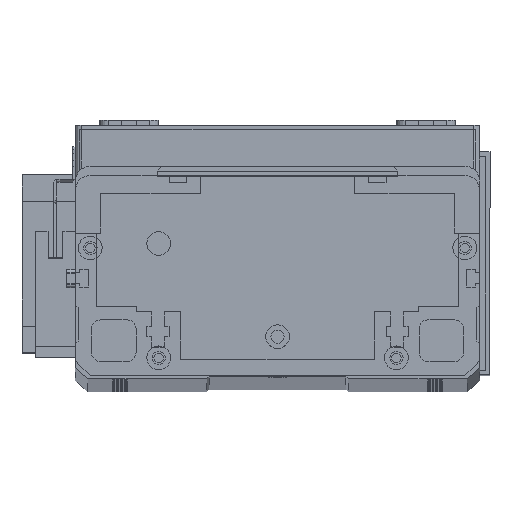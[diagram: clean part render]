
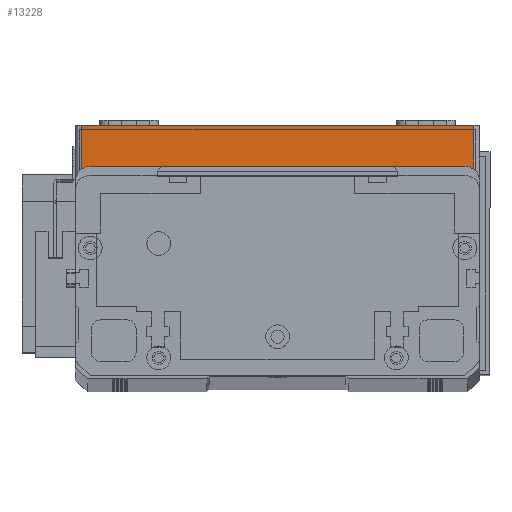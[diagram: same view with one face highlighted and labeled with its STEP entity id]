
A CAD part, top view. The second image highlights one B-rep face of the part: STEP entity #13228.
In plain terms, the highlighted planar face has unit normal (0, 0, 1) as drawn and (0, -1, 0) by its records, which use the part's own axes.
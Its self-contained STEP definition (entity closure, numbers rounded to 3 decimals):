
#1331 = CARTESIAN_POINT ( 'NONE',  ( 0., 0., 19.5 ) ) ;
#1428 = PLANE ( 'NONE',  #2782 ) ;
#1769 = LINE ( 'NONE', #26461, #7350 ) ;
#2222 = VECTOR ( 'NONE', #6581, 1000. ) ;
#2782 = AXIS2_PLACEMENT_3D ( 'NONE', #1331, #6234, #22743 ) ;
#3055 = CARTESIAN_POINT ( 'NONE',  ( 134., 0., 19.5 ) ) ;
#6182 = ORIENTED_EDGE ( 'NONE', *, *, #8465, .F. ) ;
#6234 = DIRECTION ( 'NONE',  ( 0., 1., 0. ) ) ;
#6581 = DIRECTION ( 'NONE',  ( 1., 0., 0. ) ) ;
#7350 = VECTOR ( 'NONE', #14675, 1000. ) ;
#7758 = VECTOR ( 'NONE', #21651, 1000. ) ;
#8465 = EDGE_CURVE ( 'NONE', #27734, #20528, #9282, .T. ) ;
#9282 = LINE ( 'NONE', #13579, #2222 ) ;
#9666 = EDGE_CURVE ( 'NONE', #27734, #22749, #1769, .T. ) ;
#9847 = ORIENTED_EDGE ( 'NONE', *, *, #21700, .T. ) ;
#11824 = VERTEX_POINT ( 'NONE', #14467 ) ;
#12021 = CARTESIAN_POINT ( 'NONE',  ( 2., 0., 0. ) ) ;
#13228 = ADVANCED_FACE ( 'NONE', ( #16761 ), #1428, .F. ) ;
#13579 = CARTESIAN_POINT ( 'NONE',  ( 0., 0., 19.5 ) ) ;
#14467 = CARTESIAN_POINT ( 'NONE',  ( 134., 0., 0. ) ) ;
#14675 = DIRECTION ( 'NONE',  ( 0., 0., -1. ) ) ;
#14770 = CARTESIAN_POINT ( 'NONE',  ( 0., 0., 0. ) ) ;
#14947 = EDGE_LOOP ( 'NONE', ( #6182, #26345, #9847, #20372 ) ) ;
#16761 = FACE_OUTER_BOUND ( 'NONE', #14947, .T. ) ;
#17038 = LINE ( 'NONE', #14770, #21844 ) ;
#17153 = DIRECTION ( 'NONE',  ( 1., 0., 0. ) ) ;
#20372 = ORIENTED_EDGE ( 'NONE', *, *, #29235, .T. ) ;
#20528 = VERTEX_POINT ( 'NONE', #3055 ) ;
#21635 = CARTESIAN_POINT ( 'NONE',  ( 2., 0., 19.5 ) ) ;
#21651 = DIRECTION ( 'NONE',  ( 0., 0., 1. ) ) ;
#21700 = EDGE_CURVE ( 'NONE', #22749, #11824, #17038, .T. ) ;
#21844 = VECTOR ( 'NONE', #17153, 1000. ) ;
#22743 = DIRECTION ( 'NONE',  ( 0., 0., 1. ) ) ;
#22749 = VERTEX_POINT ( 'NONE', #12021 ) ;
#26345 = ORIENTED_EDGE ( 'NONE', *, *, #9666, .T. ) ;
#26461 = CARTESIAN_POINT ( 'NONE',  ( 2., 0., 19.5 ) ) ;
#26581 = LINE ( 'NONE', #28753, #7758 ) ;
#27734 = VERTEX_POINT ( 'NONE', #21635 ) ;
#28753 = CARTESIAN_POINT ( 'NONE',  ( 134., 0., 19.5 ) ) ;
#29235 = EDGE_CURVE ( 'NONE', #11824, #20528, #26581, .T. ) ;
